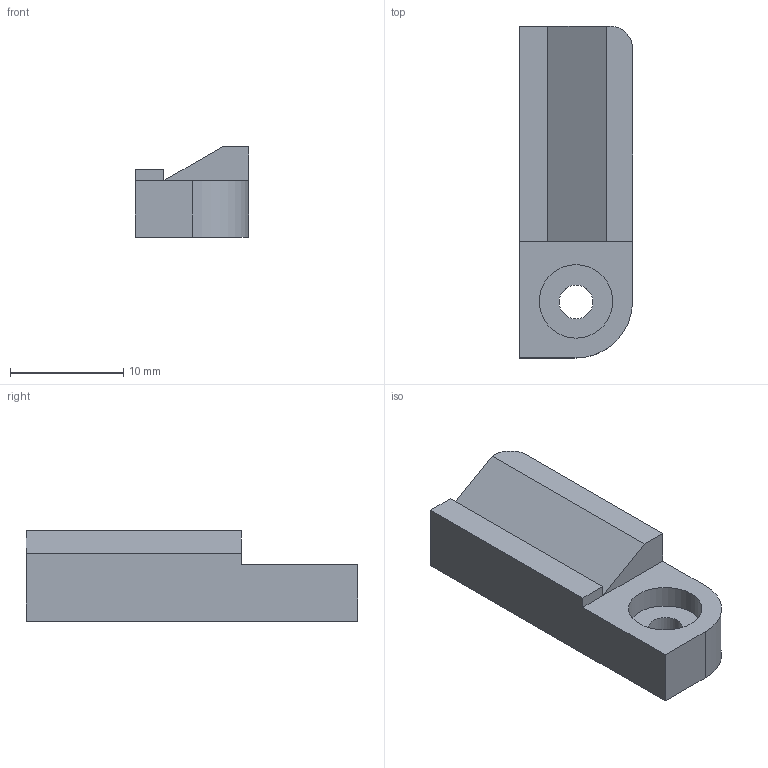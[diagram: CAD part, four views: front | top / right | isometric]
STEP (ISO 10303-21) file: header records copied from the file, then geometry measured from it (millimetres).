
FILE_DESCRIPTION((''),'2;1');
FILE_NAME('C:\MRFR\SHOCK\Hexen\STP\part.stp','2013-08-15T20:14:18',('mrfr'),(''),'Autodesk Inventor 2013','Autodesk Inventor 2013','');
FILE_SCHEMA(('AUTOMOTIVE_DESIGN { 1 0 10303 214 1 1 1 1 }'));
Length unit declared in the file: millimetre
Products named in the file (1): part
Bounding box: 10 x 29.36 x 8 mm (x, y, z)
Volume: 1674.7 mm3; surface area: 1150.8 mm2
Topology: 1 solids, 1 shells, 17 faces, 40 edges, 26 vertices
Faces by surface type: plane 13, cylinder 4
Full cylindrical faces by diameter (mm): 3 x1, 6.5 x1
Entity records: 506 total; most frequent: CARTESIAN_POINT 82, DIRECTION 82, ORIENTED_EDGE 76, EDGE_CURVE 38, VECTOR 30, LINE 30, AXIS2_PLACEMENT_3D 26, VERTEX_POINT 26
